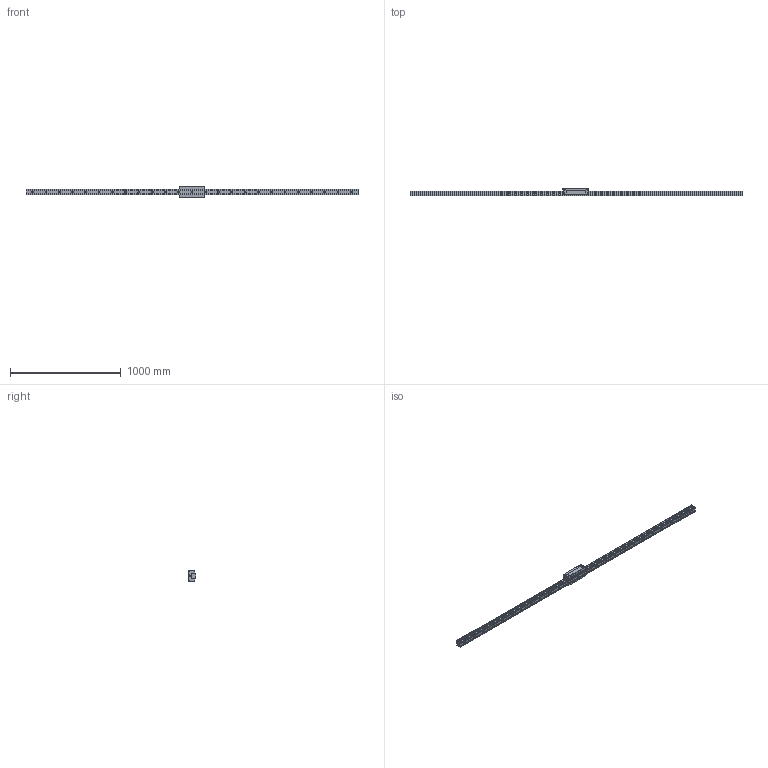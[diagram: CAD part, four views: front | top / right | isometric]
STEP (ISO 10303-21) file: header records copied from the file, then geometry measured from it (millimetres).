
FILE_DESCRIPTION(/* description */ ('STEP AP214'),/* implementation_level */ '2;1');
FILE_NAME(/* name */ 'HDR55LV1SS-3000L_G60_0_B-PT18_1391-35_0_0_01',/* time_stamp */ '2023-06-30T13:05:16+02:00',/* author */ ('License CC BY-ND 4.0'),/* organization */ ('CADENAS'),/* preprocessor_version */ 'ST-DEVELOPER v19.3',/* originating_system */ 'PARTsolutions',/* authorisation */ ' ');
FILE_SCHEMA (('AUTOMOTIVE_DESIGN {1 0 10303 214 3 1 1}'));
Length unit declared in the file: millimetre
Products named in the file (4): HDR55LV1SS-3000L_G60_0_B-PT18_1391-35_0_0_01; hsr_ftht_B-PT1/8_grease_nipple_joint; HDR55LVSSB-PT1/81 Slider; HDR55LV1300060 Rail
Assembly tree (3 placements, depth 2):
  HDR55LV1SS-3000L_G60_0_B-PT18_1391-35_0_0_01
    hsr_ftht_B-PT1/8_grease_nipple_joint
    HDR55LVSSB-PT1/81 Slider
    HDR55LV1300060 Rail
Bounding box: 3000 x 70 x 100 mm (x, y, z)
Volume: 6587089.9 mm3; surface area: 770965.1 mm2
Topology: 3 solids, 3 shells, 304 faces, 754 edges, 491 vertices
Faces by surface type: plane 164, cylinder 111, cone 24, torus 3, sphere 2
Full cylindrical faces by diameter (mm): 5.2 x4, 9.6 x1, 10.106 x6, 10.2 x2, 12.5 x2, 16 x25, 23 x25
Entity records: 8728 total; most frequent: CARTESIAN_POINT 1565, DIRECTION 1482, ORIENTED_EDGE 1290, EDGE_CURVE 645, AXIS2_PLACEMENT_3D 556, FACE_BOUND 491, VERTEX_POINT 484, EDGE_LOOP 483
